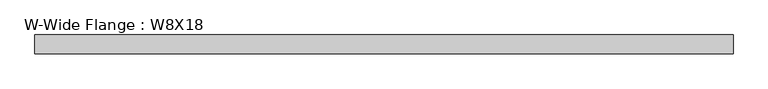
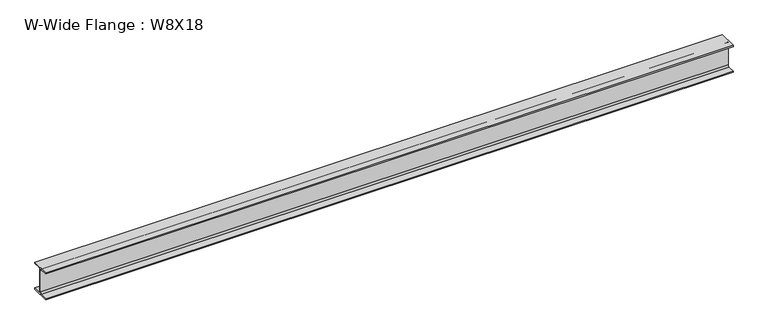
"""IFC4 building model written with IfcOpenShell, lengths in millimetres: beam geometry, W-Wide Flange : W8X18."""

from ifc_helpers import new_model, si_unit, point, frame, frame_2d, origin, place, context, project, spatial, polyline, circle_curve, trimmed, segment, composite_curve, outline, extrude, source, transform, mapped, element, save


def w_wide_flange_w8x18_62c2d6be(model_context):
    return source(origin(), model_context, "Body", "SweptSolid", [
        extrude(outline(composite_curve([segment(polyline([(66.675, -94.996), (66.675, -103.378), (-66.675, -103.378), (-66.675, -94.996), (-15.1765, -94.996)]), True, "CONTINUOUS"), segment(trimmed(circle_curve(frame_2d((-15.1765, -82.7405)), 12.2555), [point((-15.1765, -94.996))], [point((-2.921, -82.7405))], True, "CARTESIAN"), True, "CONTINUOUS"), segment(polyline([(-2.921, -82.7405), (-2.921, 82.7405)]), True, "CONTINUOUS"), segment(trimmed(circle_curve(frame_2d((-15.1765, 82.7405)), 12.2555), [point((-2.921, 82.7405))], [point((-15.1765, 94.996))], True, "CARTESIAN"), True, "CONTINUOUS"), segment(polyline([(-15.1765, 94.996), (-66.675, 94.996), (-66.675, 103.378), (66.675, 103.378), (66.675, 94.996), (15.1765, 94.996)]), True, "CONTINUOUS"), segment(trimmed(circle_curve(frame_2d((15.1765, 82.7405)), 12.2555), [point((15.1765, 94.996))], [point((2.921, 82.7405))], True, "CARTESIAN"), True, "CONTINUOUS"), segment(polyline([(2.921, 82.7405), (2.921, -82.7405)]), True, "CONTINUOUS"), segment(trimmed(circle_curve(frame_2d((15.1765, -82.7405)), 12.2555), [point((2.921, -82.7405))], [point((15.1765, -94.996))], True, "CARTESIAN"), True, "CONTINUOUS"), segment(polyline([(15.1765, -94.996), (66.675, -94.996)]), True, "CONTINUOUS")], self_intersect=False)), frame((-2467.4266146, 0.0, 0.0), z_axis=(1.0, 0.0, 0.0), x_axis=(0.0, 1.0, 0.0)), (0.0, 0.0, 1.0), 4982.2695313),
    ])


if __name__ == "__main__":
    model = new_model("IFC4")
    model_context = context("Model", 3, world=origin())
    ifc_project = project(units=[si_unit("LENGTHUNIT", "METRE", prefix="MILLI")], contexts=[model_context])
    site = spatial("IfcSite", under=ifc_project)
    building = spatial("IfcBuilding", under=site)
    placement = place(None, origin())
    w_wide_flange_w8x18_shape = w_wide_flange_w8x18_62c2d6be(model_context)
    element("IfcBeam", 1, ObjectType="W-Wide Flange : W8X18", at=placement, inside=building, context=model_context, shape_type="MappedRepresentation", body=[
        mapped(w_wide_flange_w8x18_shape, transform((0.0, 0.0, 0.0), x_axis=(1.0, 0.0, 0.0), y_axis=(0.0, 1.0, 0.0), z_axis=(0.0, 0.0, 1.0))),
    ])
    save(model, "model.ifc")
